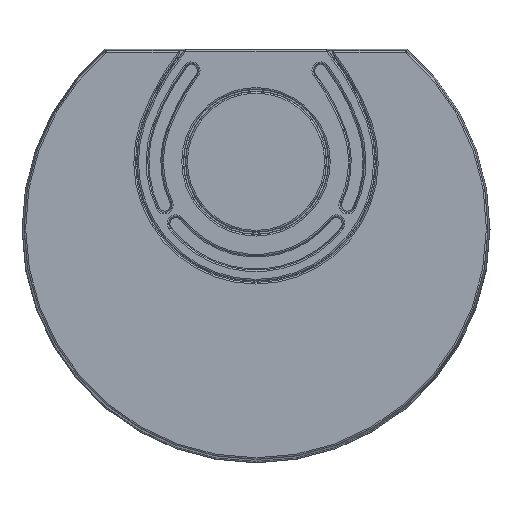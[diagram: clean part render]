
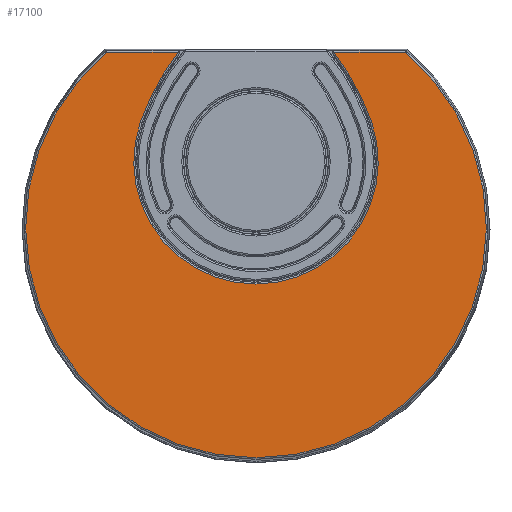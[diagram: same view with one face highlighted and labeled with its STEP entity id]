
A CAD part, top view. The second image highlights one B-rep face of the part: STEP entity #17100.
In plain terms, the highlighted planar face has unit normal (0, 0, 1).
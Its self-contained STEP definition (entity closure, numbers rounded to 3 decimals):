
#1736=CIRCLE('',#18362,0.97);
#1737=CIRCLE('',#18363,287.973);
#1738=CIRCLE('',#18364,0.97);
#1739=CIRCLE('',#18365,302.766);
#1740=CIRCLE('',#18366,152.766);
#1741=CIRCLE('',#18367,302.766);
#2566=ORIENTED_EDGE('',*,*,#7982,.T.);
#2567=ORIENTED_EDGE('',*,*,#7983,.T.);
#2568=ORIENTED_EDGE('',*,*,#7984,.T.);
#2569=ORIENTED_EDGE('',*,*,#7985,.T.);
#2570=ORIENTED_EDGE('',*,*,#7986,.T.);
#2571=ORIENTED_EDGE('',*,*,#7987,.T.);
#2572=ORIENTED_EDGE('',*,*,#7988,.T.);
#2573=ORIENTED_EDGE('',*,*,#7989,.T.);
#7982=EDGE_CURVE('',#10688,#10689,#1736,.T.);
#7983=EDGE_CURVE('',#10689,#10690,#1737,.T.);
#7984=EDGE_CURVE('',#10690,#10691,#1738,.T.);
#7985=EDGE_CURVE('',#10691,#10692,#12419,.F.);
#7986=EDGE_CURVE('',#10692,#10693,#1739,.F.);
#7987=EDGE_CURVE('',#10693,#10694,#1740,.F.);
#7988=EDGE_CURVE('',#10694,#10695,#1741,.F.);
#7989=EDGE_CURVE('',#10695,#10688,#12420,.F.);
#10688=VERTEX_POINT('',#24169);
#10689=VERTEX_POINT('',#24170);
#10690=VERTEX_POINT('',#24172);
#10691=VERTEX_POINT('',#24174);
#10692=VERTEX_POINT('',#24176);
#10693=VERTEX_POINT('',#24178);
#10694=VERTEX_POINT('',#24180);
#10695=VERTEX_POINT('',#24182);
#12419=LINE('',#24175,#13342);
#12420=LINE('',#24183,#13343);
#13342=VECTOR('',#20014,1000.);
#13343=VECTOR('',#20021,1000.);
#14260=EDGE_LOOP('',(#2566,#2567,#2568,#2569,#2570,#2571,#2572,#2573));
#15457=FACE_BOUND('',#14260,.T.);
#16651=PLANE('',#18361);
#17100=ADVANCED_FACE('',(#15457),#16651,.T.);
#18361=AXIS2_PLACEMENT_3D('',#24167,#20006,#20007);
#18362=AXIS2_PLACEMENT_3D('',#24168,#20008,#20009);
#18363=AXIS2_PLACEMENT_3D('',#24171,#20010,#20011);
#18364=AXIS2_PLACEMENT_3D('',#24173,#20012,#20013);
#18365=AXIS2_PLACEMENT_3D('',#24177,#20015,#20016);
#18366=AXIS2_PLACEMENT_3D('',#24179,#20017,#20018);
#18367=AXIS2_PLACEMENT_3D('',#24181,#20019,#20020);
#20006=DIRECTION('',(0.,0.,1.));
#20007=DIRECTION('',(1.,0.,0.));
#20008=DIRECTION('',(0.,0.,1.));
#20009=DIRECTION('',(1.,0.,0.));
#20010=DIRECTION('',(0.,0.,1.));
#20011=DIRECTION('',(1.,0.,0.));
#20012=DIRECTION('',(0.,0.,1.));
#20013=DIRECTION('',(1.,0.,0.));
#20014=DIRECTION('',(1.,0.,0.));
#20015=DIRECTION('',(0.,0.,1.));
#20016=DIRECTION('',(1.,0.,0.));
#20017=DIRECTION('',(0.,0.,1.));
#20018=DIRECTION('',(1.,0.,0.));
#20019=DIRECTION('',(0.,0.,1.));
#20020=DIRECTION('',(1.,0.,0.));
#20021=DIRECTION('',(1.,0.,0.));
#24167=CARTESIAN_POINT('',(186.786,-103.397,1288.));
#24168=CARTESIAN_POINT('',(-186.786,-103.397,1288.));
#24169=CARTESIAN_POINT('',(-186.786,-102.427,1288.));
#24170=CARTESIAN_POINT('',(-187.417,-102.66,1288.));
#24171=CARTESIAN_POINT('',(0.,-321.3,1288.));
#24172=CARTESIAN_POINT('',(187.417,-102.66,1288.));
#24173=CARTESIAN_POINT('',(186.786,-103.397,1288.));
#24174=CARTESIAN_POINT('',(186.786,-102.427,1288.));
#24175=CARTESIAN_POINT('',(97.241,-102.427,1288.));
#24176=CARTESIAN_POINT('',(97.188,-102.427,1288.));
#24177=CARTESIAN_POINT('',(-141.743,-288.382,1288.));
#24178=CARTESIAN_POINT('',(144.356,-189.313,1288.));
#24179=CARTESIAN_POINT('',(0.,-239.3,1288.));
#24180=CARTESIAN_POINT('',(-144.356,-189.313,1288.));
#24181=CARTESIAN_POINT('',(141.743,-288.382,1288.));
#24182=CARTESIAN_POINT('',(-97.188,-102.427,1288.));
#24183=CARTESIAN_POINT('',(-186.786,-102.427,1288.));
